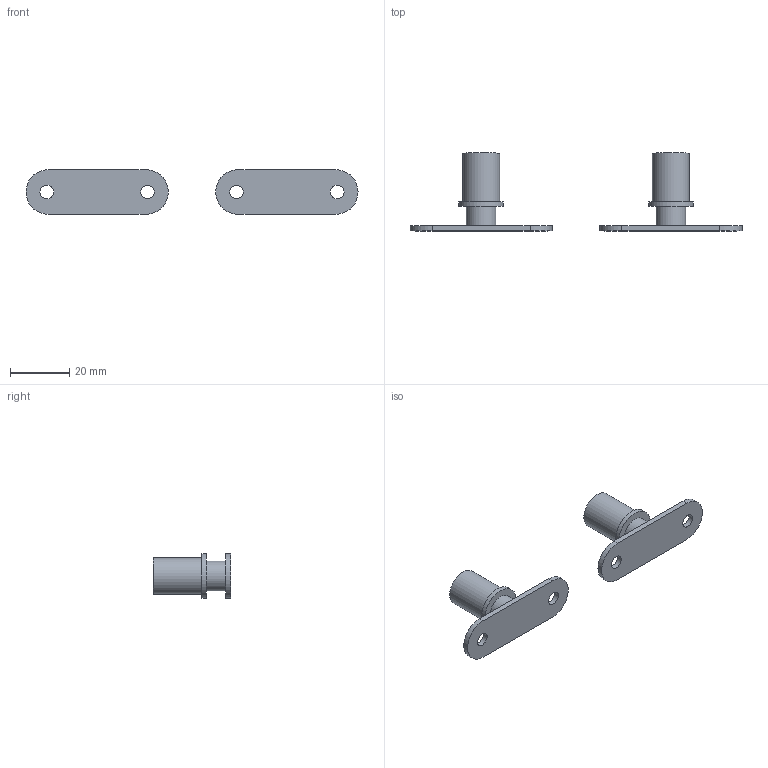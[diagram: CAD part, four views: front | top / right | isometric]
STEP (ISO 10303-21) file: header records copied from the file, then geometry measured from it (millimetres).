
FILE_DESCRIPTION( ( 'STEP AP214' ), '1' );
FILE_NAME( 'D:/Yug/2022/Sliding_&_Folding/WingLine_L/QC/9266243.stp', '2022-03-24T08:03:34', ( '' ), ( '' ), ' ', 'PARTsolutions', ' ' );
FILE_SCHEMA( ( 'AUTOMOTIVE_DESIGN { 1 0 10303 214 1 1 1 1 }' ) );
Length unit declared in the file: millimetre
Products named in the file (3): 9266243; _socket_magnet; _counterplate
Assembly tree (4 placements, depth 2):
  9266243
    _socket_magnet  x2
    _counterplate  x2
Bounding box: 112 x 26.3 x 15 mm (x, y, z)
Volume: 7899.4 mm3; surface area: 5617.7 mm2
Topology: 4 solids, 4 shells, 30 faces, 54 edges, 36 vertices
Faces by surface type: plane 16, cylinder 14
Full cylindrical faces by diameter (mm): 4.6 x4, 10 x2, 12.5 x2, 15 x2
Entity records: 548 total; most frequent: DIRECTION 76, CARTESIAN_POINT 60, ORIENTED_EDGE 44, AXIS2_PLACEMENT_3D 34, EDGE_LOOP 26, EDGE_CURVE 22, FACE_OUTER_BOUND 20, VERTEX_POINT 18
